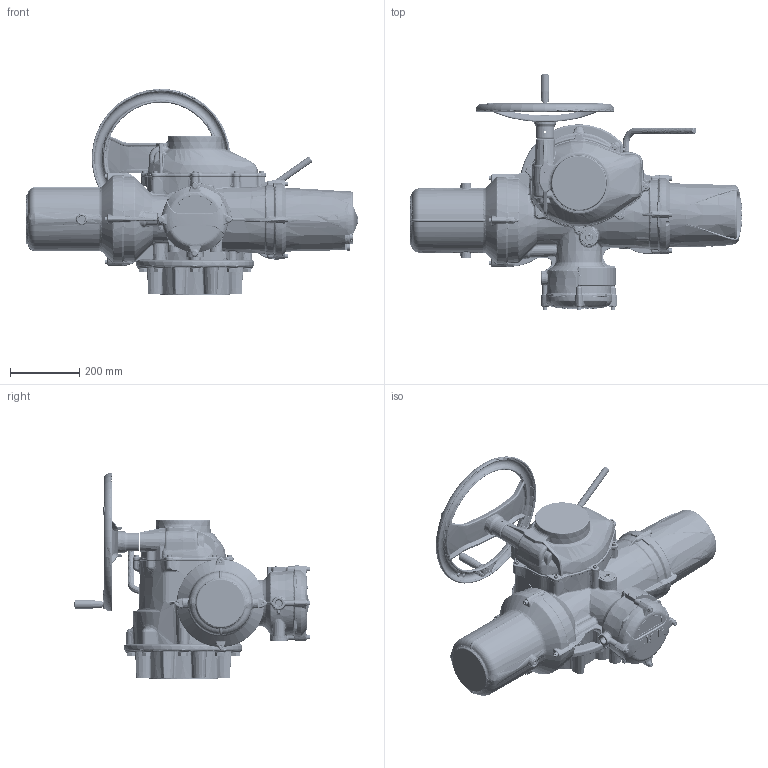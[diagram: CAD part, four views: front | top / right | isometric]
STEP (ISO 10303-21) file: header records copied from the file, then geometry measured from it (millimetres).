
FILE_DESCRIPTION( ( 'Unknown' ), '1' );
FILE_NAME( 'S:/Release/Datasheets for P.E/size45 models for website/II40_SHW_F25_A-1.stp', 'Unknown', ( 'Unknown' ), ( 'Unknown' ), 'PSStep 15.0.49', 'Unknown', ' ' );
FILE_SCHEMA( ( 'AUTOMOTIVE_DESIGN { 1 0 10303 214 1 1 1 1 }' ) );
Length unit declared in the file: millimetre
Products named in the file (9): II45-01-std
Bounding box: 958.3 x 680.05 x 596 mm (x, y, z)
Volume: 927715.8 mm3; surface area: 1801221.9 mm2
Topology: 62 solids, 64 shells, 7196 faces, 17769 edges, 10513 vertices
Faces by surface type: bspline 2624, plane 1812, cylinder 1053, torus 711, cone 635, sphere 214, extrusion 108, revolution 21, offset 18
Full cylindrical faces by diameter (mm): 1.152 x1, 3 x10, 3.5 x1, 6 x5, 6.45 x4, 6.47 x4, 6.5 x1, 6.647 x8, 7 x4, 7.6 x4, 8 x21, 8.1 x1, 8.2 x1, 8.3 x2, 8.376 x1, 8.5 x4, 9.7 x1, 9.83 x8, 9.85 x8, 10 x1, 10.106 x16, 12 x18, 12.1 x1, 13 x20, 13.25 x7, 13.548 x1, 13.55 x1, 13.835 x16, 16 x9, 16.75 x1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
Entity records: 700749 total; most frequent: CARTESIAN_POINT 498899, ORIENTED_EDGE 33132, DIRECTION 25105, EDGE_CURVE 16566, AXIS2_PLACEMENT_3D 10577, VERTEX_POINT 10187, EDGE_LOOP 7974, FACE_OUTER_BOUND 7549
